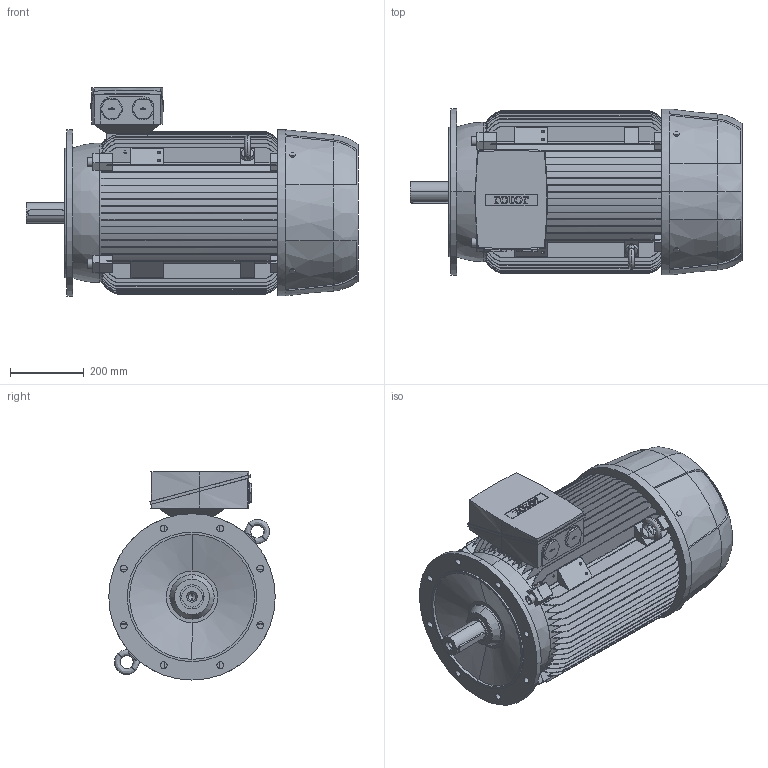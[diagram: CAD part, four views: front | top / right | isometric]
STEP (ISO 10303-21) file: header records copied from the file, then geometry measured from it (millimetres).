
FILE_DESCRIPTION (( 'STEP AP203' ), '1' );
FILE_NAME ('6RN225M02E36 IM3041.STEP', '2017-01-11T07:39:28', ( 'rotor' ), ( 'Hewlett-Packard Company' ), 'SwSTEP 2.0', 'SolidWorks 2015', '' );
FILE_SCHEMA (( 'CONFIG_CONTROL_DESIGN' ));
Length unit declared in the file: millimetre
Products named in the file (1): 6RN225M02E36 IM3041
Bounding box: 898 x 450 x 563 mm (x, y, z)
Volume: 101455912.7 mm3; surface area: 3438530.9 mm2
Topology: 1 solids, 1 shells, 1023 faces, 2903 edges, 1917 vertices
Faces by surface type: plane 609, cylinder 201, bspline 194, cone 19
Entity records: 42551 total; most frequent: CARTESIAN_POINT 17503, ORIENTED_EDGE 5802, DIRECTION 4362, EDGE_CURVE 2901, VERTEX_POINT 1917, LINE 1688, VECTOR 1688, AXIS2_PLACEMENT_3D 1337
